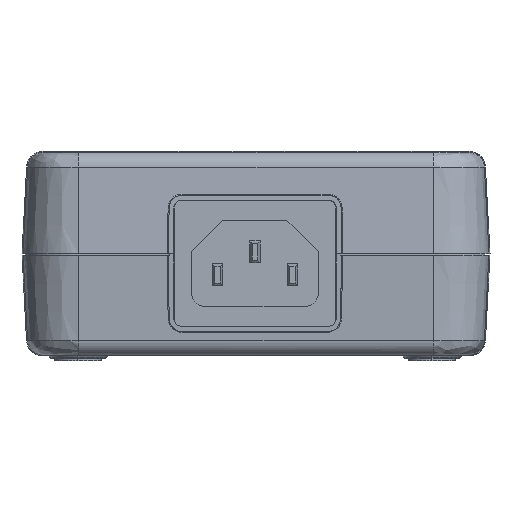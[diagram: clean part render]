
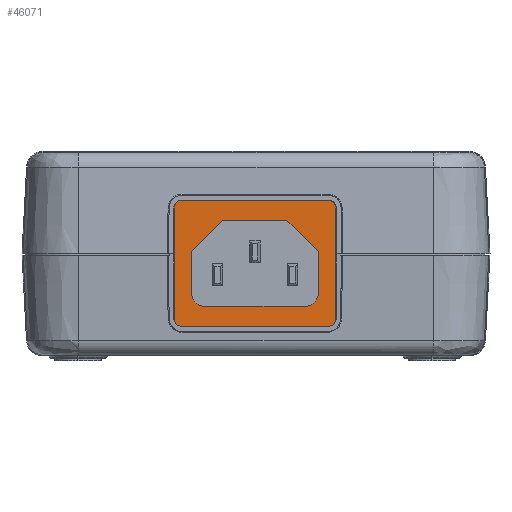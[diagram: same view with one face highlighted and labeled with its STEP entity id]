
A CAD part, left-side view. The second image highlights one B-rep face of the part: STEP entity #46071.
In plain terms, the highlighted planar face has unit normal (-1, 0, 0) as drawn and (1, 0, 0) by its records, which use the part's own axes.
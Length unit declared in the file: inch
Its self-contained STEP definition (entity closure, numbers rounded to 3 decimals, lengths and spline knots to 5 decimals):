
#15 = CARTESIAN_POINT ( 'NONE',  ( 0.11811, 0.47835, -0.22835 ) ) ;
#808 = FACE_BOUND ( 'NONE', #24838, .T. ) ;
#883 = DIRECTION ( 'NONE',  ( -1., 0., 0. ) ) ;
#2046 = EDGE_CURVE ( 'NONE', #43468, #41872, #26097, .T. ) ;
#2177 = LINE ( 'NONE', #14298, #20245 ) ;
#2294 = ORIENTED_EDGE ( 'NONE', *, *, #2046, .T. ) ;
#2403 = EDGE_CURVE ( 'NONE', #13117, #34196, #28845, .T. ) ;
#2408 = DIRECTION ( 'NONE',  ( 0., 0., 1. ) ) ;
#3233 = CARTESIAN_POINT ( 'NONE',  ( 0.11811, -0.24213, 0.32677 ) ) ;
#3375 = ORIENTED_EDGE ( 'NONE', *, *, #5352, .F. ) ;
#3707 = VERTEX_POINT ( 'NONE', #15 ) ;
#4041 = AXIS2_PLACEMENT_3D ( 'NONE', #33017, #34123, #37425 ) ;
#4129 = FACE_OUTER_BOUND ( 'NONE', #10017, .T. ) ;
#4436 = ORIENTED_EDGE ( 'NONE', *, *, #42442, .F. ) ;
#4478 = CARTESIAN_POINT ( 'NONE',  ( 0.11811, -0.37992, -0.22835 ) ) ;
#4540 = EDGE_CURVE ( 'NONE', #41872, #50184, #8261, .T. ) ;
#4784 = CARTESIAN_POINT ( 'NONE',  ( 0.11811, 0.6122, 0.41732 ) ) ;
#4845 = VECTOR ( 'NONE', #48758, 39.37008 ) ;
#5192 = CARTESIAN_POINT ( 'NONE',  ( 0.11811, -0.6122, 0.47638 ) ) ;
#5352 = EDGE_CURVE ( 'NONE', #7229, #42949, #38969, .T. ) ;
#6342 = ORIENTED_EDGE ( 'NONE', *, *, #15776, .T. ) ;
#6524 = VERTEX_POINT ( 'NONE', #21451 ) ;
#6536 = VECTOR ( 'NONE', #44183, 39.37008 ) ;
#6741 = VECTOR ( 'NONE', #43742, 39.37008 ) ;
#7229 = VERTEX_POINT ( 'NONE', #20792 ) ;
#7432 = EDGE_CURVE ( 'NONE', #34933, #18948, #23766, .T. ) ;
#8261 = LINE ( 'NONE', #12425, #28458 ) ;
#8365 = CARTESIAN_POINT ( 'NONE',  ( 0.11811, -0.47835, 0.09055 ) ) ;
#8426 = CARTESIAN_POINT ( 'NONE',  ( 0.11811, 0.37992, -0.22835 ) ) ;
#10017 = EDGE_LOOP ( 'NONE', ( #27021, #38702, #47224, #3375, #24829, #26231, #33578, #4436 ) ) ;
#10386 = DIRECTION ( 'NONE',  ( 0., -1., 0. ) ) ;
#10391 = LINE ( 'NONE', #5192, #4845 ) ;
#10571 = CARTESIAN_POINT ( 'NONE',  ( 0.11811, 0.37992, -0.32677 ) ) ;
#10656 = DIRECTION ( 'NONE',  ( 0., 0., 1. ) ) ;
#12425 = CARTESIAN_POINT ( 'NONE',  ( 0.11811, -0.47835, 0. ) ) ;
#12920 = DIRECTION ( 'NONE',  ( 1., 0., 0. ) ) ;
#13117 = VERTEX_POINT ( 'NONE', #54088 ) ;
#13333 = CARTESIAN_POINT ( 'NONE',  ( 0.11811, -0.55315, 0.41732 ) ) ;
#14298 = CARTESIAN_POINT ( 'NONE',  ( 0.11811, 0.6122, 0.47638 ) ) ;
#14387 = EDGE_CURVE ( 'NONE', #36768, #34196, #2177, .T. ) ;
#14519 = LINE ( 'NONE', #48236, #36028 ) ;
#15070 = DIRECTION ( 'NONE',  ( -1., 0., 0. ) ) ;
#15776 = EDGE_CURVE ( 'NONE', #24803, #43468, #14519, .T. ) ;
#15823 = ORIENTED_EDGE ( 'NONE', *, *, #23933, .T. ) ;
#17235 = EDGE_CURVE ( 'NONE', #18948, #6524, #25649, .T. ) ;
#17507 = CARTESIAN_POINT ( 'NONE',  ( 0.11811, -0.37992, -0.32677 ) ) ;
#18061 = LINE ( 'NONE', #34896, #6741 ) ;
#18322 = ORIENTED_EDGE ( 'NONE', *, *, #4540, .T. ) ;
#18610 = CARTESIAN_POINT ( 'NONE',  ( 0.11811, 0.55315, -0.47638 ) ) ;
#18880 = CARTESIAN_POINT ( 'NONE',  ( 0.11811, 0.55315, 0.47638 ) ) ;
#18938 = CARTESIAN_POINT ( 'NONE',  ( 0.11811, -0.55315, -0.41732 ) ) ;
#18948 = VERTEX_POINT ( 'NONE', #40070 ) ;
#20245 = VECTOR ( 'NONE', #34251, 39.37008 ) ;
#20792 = CARTESIAN_POINT ( 'NONE',  ( 0.11811, -0.55315, -0.47638 ) ) ;
#21451 = CARTESIAN_POINT ( 'NONE',  ( 0.11811, 0.47835, 0.09055 ) ) ;
#21562 = EDGE_CURVE ( 'NONE', #50184, #34933, #18061, .T. ) ;
#21830 = DIRECTION ( 'NONE',  ( 0., 0., -1. ) ) ;
#22488 = VECTOR ( 'NONE', #32866, 39.37008 ) ;
#23242 = CARTESIAN_POINT ( 'NONE',  ( 0.11811, 0.47835, 0. ) ) ;
#23450 = CARTESIAN_POINT ( 'NONE',  ( 0.11811, -0.6122, -0.47638 ) ) ;
#23493 = VECTOR ( 'NONE', #37000, 39.37008 ) ;
#23661 = CARTESIAN_POINT ( 'NONE',  ( 0.11811, -0.6122, -0.41732 ) ) ;
#23766 = LINE ( 'NONE', #32041, #23493 ) ;
#23933 = EDGE_CURVE ( 'NONE', #6524, #3707, #45338, .T. ) ;
#23969 = ORIENTED_EDGE ( 'NONE', *, *, #49150, .T. ) ;
#24803 = VERTEX_POINT ( 'NONE', #10571 ) ;
#24829 = ORIENTED_EDGE ( 'NONE', *, *, #40422, .T. ) ;
#24838 = EDGE_LOOP ( 'NONE', ( #6342, #2294, #18322, #36792, #41745, #42284, #15823, #23969 ) ) ;
#25649 = LINE ( 'NONE', #30344, #45590 ) ;
#26097 = CIRCLE ( 'NONE', #29618, 0.09843 ) ;
#26231 = ORIENTED_EDGE ( 'NONE', *, *, #43131, .F. ) ;
#27021 = ORIENTED_EDGE ( 'NONE', *, *, #14387, .T. ) ;
#28140 = CARTESIAN_POINT ( 'NONE',  ( 0.11811, 0.6122, -0.41732 ) ) ;
#28442 = CARTESIAN_POINT ( 'NONE',  ( 0.11811, -0.55315, 0.47638 ) ) ;
#28458 = VECTOR ( 'NONE', #45862, 39.37008 ) ;
#28845 = CIRCLE ( 'NONE', #40306, 0.05906 ) ;
#29228 = VERTEX_POINT ( 'NONE', #28140 ) ;
#29618 = AXIS2_PLACEMENT_3D ( 'NONE', #4478, #883, #21830 ) ;
#30176 = DIRECTION ( 'NONE',  ( -1., 0., 0. ) ) ;
#30344 = CARTESIAN_POINT ( 'NONE',  ( 0.11811, 0.24213, 0.32677 ) ) ;
#30351 = CIRCLE ( 'NONE', #51546, 0.09843 ) ;
#31063 = AXIS2_PLACEMENT_3D ( 'NONE', #18938, #15070, #10656 ) ;
#32041 = CARTESIAN_POINT ( 'NONE',  ( 0.11811, 0., 0.32677 ) ) ;
#32274 = EDGE_CURVE ( 'NONE', #29228, #44696, #40984, .T. ) ;
#32550 = EDGE_CURVE ( 'NONE', #13117, #42949, #10391, .T. ) ;
#32866 = DIRECTION ( 'NONE',  ( 0., 0., -1. ) ) ;
#33017 = CARTESIAN_POINT ( 'NONE',  ( 0.11811, 0.55315, -0.41732 ) ) ;
#33492 = CARTESIAN_POINT ( 'NONE',  ( 0.11811, 0.55315, 0.41732 ) ) ;
#33578 = ORIENTED_EDGE ( 'NONE', *, *, #32274, .T. ) ;
#34123 = DIRECTION ( 'NONE',  ( -1., 0., 0. ) ) ;
#34196 = VERTEX_POINT ( 'NONE', #28442 ) ;
#34251 = DIRECTION ( 'NONE',  ( 0., -1., 0. ) ) ;
#34896 = CARTESIAN_POINT ( 'NONE',  ( 0.11811, -0.47835, 0.09055 ) ) ;
#34933 = VERTEX_POINT ( 'NONE', #3233 ) ;
#36028 = VECTOR ( 'NONE', #10386, 39.37008 ) ;
#36768 = VERTEX_POINT ( 'NONE', #18880 ) ;
#36792 = ORIENTED_EDGE ( 'NONE', *, *, #21562, .T. ) ;
#36814 = DIRECTION ( 'NONE',  ( -1., 0., 0. ) ) ;
#37000 = DIRECTION ( 'NONE',  ( 0., 1., 0. ) ) ;
#37425 = DIRECTION ( 'NONE',  ( 0., 0., 1. ) ) ;
#37671 = DIRECTION ( 'NONE',  ( -1., 0., 0. ) ) ;
#37754 = CARTESIAN_POINT ( 'NONE',  ( 0.11811, 0., 0. ) ) ;
#38288 = VECTOR ( 'NONE', #2408, 39.37008 ) ;
#38355 = CIRCLE ( 'NONE', #4041, 0.05906 ) ;
#38702 = ORIENTED_EDGE ( 'NONE', *, *, #2403, .F. ) ;
#38969 = CIRCLE ( 'NONE', #31063, 0.05906 ) ;
#39755 = LINE ( 'NONE', #23450, #6536 ) ;
#40070 = CARTESIAN_POINT ( 'NONE',  ( 0.11811, 0.24213, 0.32677 ) ) ;
#40177 = CARTESIAN_POINT ( 'NONE',  ( 0.11811, 0.6122, -0.47638 ) ) ;
#40306 = AXIS2_PLACEMENT_3D ( 'NONE', #13333, #30176, #47046 ) ;
#40422 = EDGE_CURVE ( 'NONE', #7229, #48038, #39755, .T. ) ;
#40984 = LINE ( 'NONE', #40177, #38288 ) ;
#41745 = ORIENTED_EDGE ( 'NONE', *, *, #7432, .T. ) ;
#41872 = VERTEX_POINT ( 'NONE', #46094 ) ;
#42201 = DIRECTION ( 'NONE',  ( 0., 0., -1. ) ) ;
#42284 = ORIENTED_EDGE ( 'NONE', *, *, #17235, .T. ) ;
#42442 = EDGE_CURVE ( 'NONE', #36768, #44696, #48106, .T. ) ;
#42949 = VERTEX_POINT ( 'NONE', #23661 ) ;
#43131 = EDGE_CURVE ( 'NONE', #29228, #48038, #38355, .T. ) ;
#43468 = VERTEX_POINT ( 'NONE', #17507 ) ;
#43742 = DIRECTION ( 'NONE',  ( 0., 0.707, 0.707 ) ) ;
#44183 = DIRECTION ( 'NONE',  ( 0., 1., 0. ) ) ;
#44696 = VERTEX_POINT ( 'NONE', #4784 ) ;
#45338 = LINE ( 'NONE', #23242, #22488 ) ;
#45590 = VECTOR ( 'NONE', #46947, 39.37008 ) ;
#45862 = DIRECTION ( 'NONE',  ( 0., 0., 1. ) ) ;
#45968 = DIRECTION ( 'NONE',  ( 0., 0., 1. ) ) ;
#46071 = ADVANCED_FACE ( 'NONE', ( #4129, #808 ), #54369, .T. ) ;
#46094 = CARTESIAN_POINT ( 'NONE',  ( 0.11811, -0.47835, -0.22835 ) ) ;
#46947 = DIRECTION ( 'NONE',  ( 0., 0.707, -0.707 ) ) ;
#47046 = DIRECTION ( 'NONE',  ( 0., 0., 1. ) ) ;
#47172 = AXIS2_PLACEMENT_3D ( 'NONE', #37754, #12920, #42201 ) ;
#47224 = ORIENTED_EDGE ( 'NONE', *, *, #32550, .T. ) ;
#48038 = VERTEX_POINT ( 'NONE', #18610 ) ;
#48106 = CIRCLE ( 'NONE', #53404, 0.05906 ) ;
#48236 = CARTESIAN_POINT ( 'NONE',  ( 0.11811, 0., -0.32677 ) ) ;
#48758 = DIRECTION ( 'NONE',  ( 0., 0., -1. ) ) ;
#49150 = EDGE_CURVE ( 'NONE', #3707, #24803, #30351, .T. ) ;
#50184 = VERTEX_POINT ( 'NONE', #8365 ) ;
#50423 = DIRECTION ( 'NONE',  ( 0., 0., -1. ) ) ;
#51546 = AXIS2_PLACEMENT_3D ( 'NONE', #8426, #37671, #50423 ) ;
#53404 = AXIS2_PLACEMENT_3D ( 'NONE', #33492, #36814, #45968 ) ;
#54088 = CARTESIAN_POINT ( 'NONE',  ( 0.11811, -0.6122, 0.41732 ) ) ;
#54369 = PLANE ( 'NONE',  #47172 ) ;
